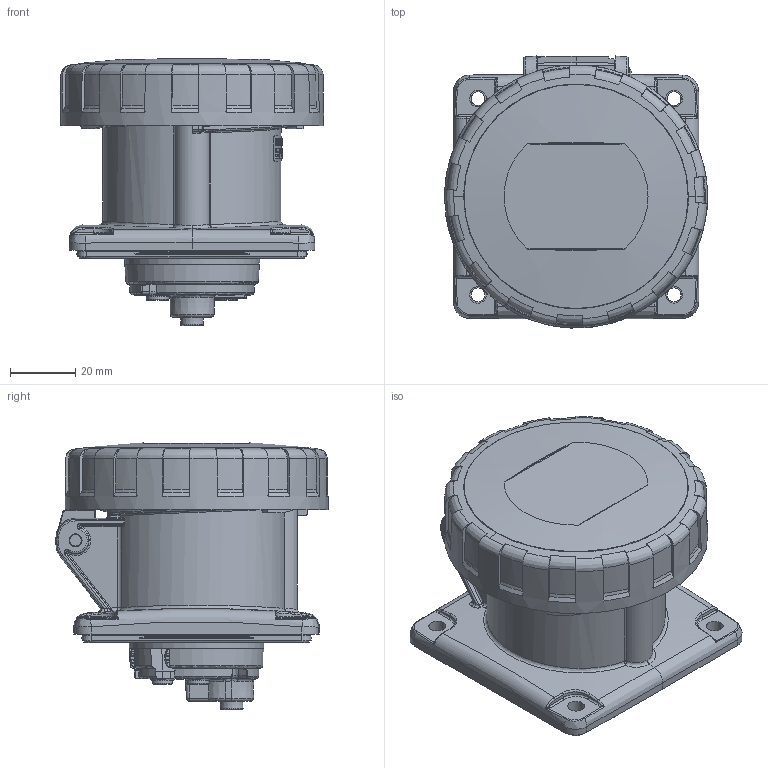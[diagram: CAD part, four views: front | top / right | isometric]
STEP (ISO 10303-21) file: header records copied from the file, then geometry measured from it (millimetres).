
FILE_DESCRIPTION(/* description */ (''),/* implementation_level */ '2;1');
FILE_NAME(/* name */ '4006950.stp',/* time_stamp */ '2019-11-12T08:27:09+01:00',/* author */ (''),/* organization */ (''),/* preprocessor_version */ 'ST-DEVELOPER v16.7',/* originating_system */ 'SIEMENS PLM Software NX 1888',/* authorisation */ '');
FILE_SCHEMA (('AUTOMOTIVE_DESIGN { 1 0 10303 214 3 1 1 1 }'));
Length unit declared in the file: millimetre
Products named in the file (1): BSOM338C9F47ukdy
Bounding box: 80.46 x 83.22 x 81.7 mm (x, y, z)
Volume: 101124.5 mm3; surface area: 109819.5 mm2
Topology: 18 solids, 18 shells, 4089 faces, 10622 edges, 6500 vertices
Faces by surface type: plane 1272, cylinder 848, bspline 837, cone 418, extrusion 290, torus 284, sphere 140
Full cylindrical faces by diameter (mm): 0.998 x4, 1 x2, 2.25 x2, 3 x6, 3.2 x2, 3.5 x4, 3.6 x4, 4 x7, 4.5 x2, 4.643 x1, 5 x2, 5.1 x4, 5.7 x4, 5.8 x4, 7 x3, 7.1 x1, 9 x1, 40 x1, 48.2 x1, 50 x1, 68.7 x1, 74 x1
Entity records: 195134 total; most frequent: CARTESIAN_POINT 104509, ORIENTED_EDGE 20240, DIRECTION 16601, EDGE_CURVE 10120, AXIS2_PLACEMENT_3D 6442, VERTEX_POINT 6382, EDGE_LOOP 4473, ADVANCED_FACE 4088
